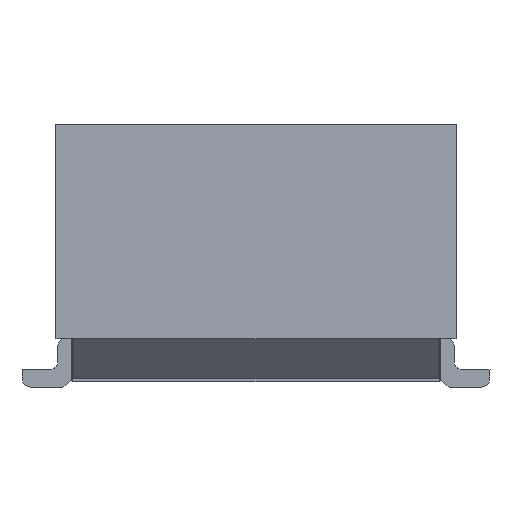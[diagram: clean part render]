
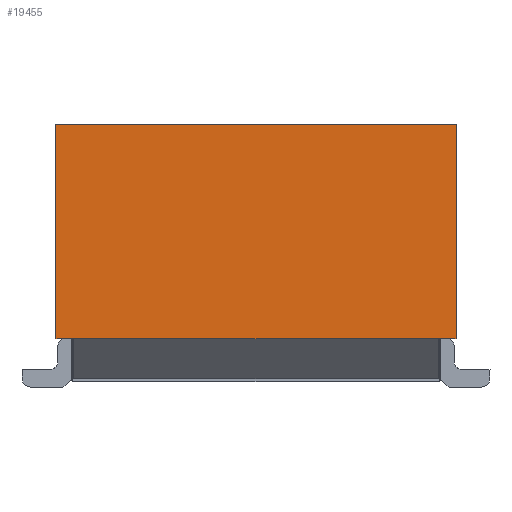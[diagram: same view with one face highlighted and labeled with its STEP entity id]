
A CAD part, front view. The second image highlights one B-rep face of the part: STEP entity #19455.
In plain terms, the highlighted planar face has unit normal (0, -1, 0).
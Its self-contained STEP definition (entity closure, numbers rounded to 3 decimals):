
#388 = VERTEX_POINT ( 'NONE', #9456 ) ;
#407 = VECTOR ( 'NONE', #26645, 1000. ) ;
#1637 = DIRECTION ( 'NONE',  ( -1., 0., 0. ) ) ;
#1878 = CARTESIAN_POINT ( 'NONE',  ( 51.32, 22.7, -1.3 ) ) ;
#1931 = LINE ( 'NONE', #11681, #11367 ) ;
#3350 = EDGE_CURVE ( 'NONE', #23343, #5317, #19165, .T. ) ;
#4030 = DIRECTION ( 'NONE',  ( -1., 0., 0. ) ) ;
#4453 = DIRECTION ( 'NONE',  ( 0., 1., 0. ) ) ;
#5317 = VERTEX_POINT ( 'NONE', #11440 ) ;
#5625 = EDGE_CURVE ( 'NONE', #5317, #13221, #1931, .T. ) ;
#6836 = CARTESIAN_POINT ( 'NONE',  ( 48.55, 22.7, -1.3 ) ) ;
#7193 = EDGE_LOOP ( 'NONE', ( #26306, #9253, #30770, #24863, #21561, #24161 ) ) ;
#7753 = VECTOR ( 'NONE', #29301, 1000. ) ;
#8911 = EDGE_CURVE ( 'NONE', #23343, #12732, #30324, .T. ) ;
#9253 = ORIENTED_EDGE ( 'NONE', *, *, #5625, .T. ) ;
#9415 = DIRECTION ( 'NONE',  ( 1., 0., 0. ) ) ;
#9456 = CARTESIAN_POINT ( 'NONE',  ( 48.68, 22.7, -1.3 ) ) ;
#11367 = VECTOR ( 'NONE', #24223, 1000. ) ;
#11440 = CARTESIAN_POINT ( 'NONE',  ( 48.55, 22.7, 0.25 ) ) ;
#11533 = CARTESIAN_POINT ( 'NONE',  ( 48.68, 22.7, -1.3 ) ) ;
#11681 = CARTESIAN_POINT ( 'NONE',  ( 48.55, 22.7, -0.8 ) ) ;
#11799 = PLANE ( 'NONE',  #13674 ) ;
#12732 = VERTEX_POINT ( 'NONE', #18965 ) ;
#13221 = VERTEX_POINT ( 'NONE', #6836 ) ;
#13674 = AXIS2_PLACEMENT_3D ( 'NONE', #28857, #4453, #9415 ) ;
#13953 = VECTOR ( 'NONE', #1637, 1000. ) ;
#14184 = VERTEX_POINT ( 'NONE', #1878 ) ;
#15542 = CARTESIAN_POINT ( 'NONE',  ( 51.45, 22.7, -0.8 ) ) ;
#16847 = CARTESIAN_POINT ( 'NONE',  ( 51.32, 22.7, -1.3 ) ) ;
#17121 = FACE_OUTER_BOUND ( 'NONE', #7193, .T. ) ;
#17847 = CARTESIAN_POINT ( 'NONE',  ( 51.45, 22.7, 0.25 ) ) ;
#18965 = CARTESIAN_POINT ( 'NONE',  ( 51.45, 22.7, -1.3 ) ) ;
#19165 = LINE ( 'NONE', #21744, #7753 ) ;
#19455 = ADVANCED_FACE ( 'NONE', ( #17121 ), #11799, .F. ) ;
#20359 = EDGE_CURVE ( 'NONE', #14184, #12732, #28580, .T. ) ;
#21561 = ORIENTED_EDGE ( 'NONE', *, *, #20359, .T. ) ;
#21744 = CARTESIAN_POINT ( 'NONE',  ( 48.56, 22.7, 0.25 ) ) ;
#23343 = VERTEX_POINT ( 'NONE', #17847 ) ;
#24161 = ORIENTED_EDGE ( 'NONE', *, *, #8911, .F. ) ;
#24204 = EDGE_CURVE ( 'NONE', #388, #13221, #25863, .T. ) ;
#24223 = DIRECTION ( 'NONE',  ( 0., 0., -1. ) ) ;
#24863 = ORIENTED_EDGE ( 'NONE', *, *, #27389, .F. ) ;
#25708 = LINE ( 'NONE', #26018, #13953 ) ;
#25863 = LINE ( 'NONE', #11533, #30345 ) ;
#26018 = CARTESIAN_POINT ( 'NONE',  ( 50., 22.7, -1.3 ) ) ;
#26306 = ORIENTED_EDGE ( 'NONE', *, *, #3350, .T. ) ;
#26645 = DIRECTION ( 'NONE',  ( 1., 0., 0. ) ) ;
#27389 = EDGE_CURVE ( 'NONE', #14184, #388, #25708, .T. ) ;
#27905 = DIRECTION ( 'NONE',  ( 0., 0., -1. ) ) ;
#28580 = LINE ( 'NONE', #16847, #407 ) ;
#28857 = CARTESIAN_POINT ( 'NONE',  ( 52.25, 22.7, -0.8 ) ) ;
#28889 = VECTOR ( 'NONE', #27905, 1000. ) ;
#29301 = DIRECTION ( 'NONE',  ( -1., 0., 0. ) ) ;
#30324 = LINE ( 'NONE', #15542, #28889 ) ;
#30345 = VECTOR ( 'NONE', #4030, 1000. ) ;
#30770 = ORIENTED_EDGE ( 'NONE', *, *, #24204, .F. ) ;
